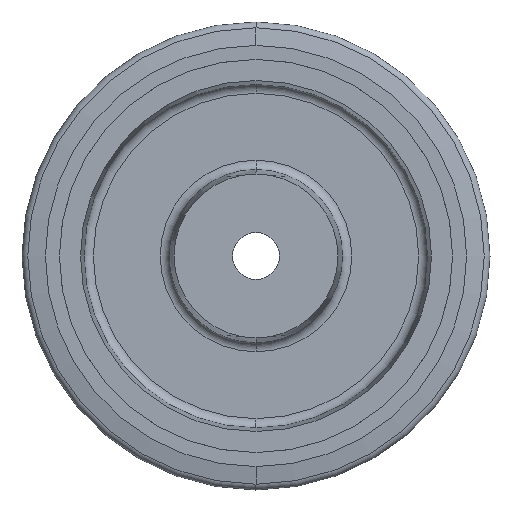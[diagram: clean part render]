
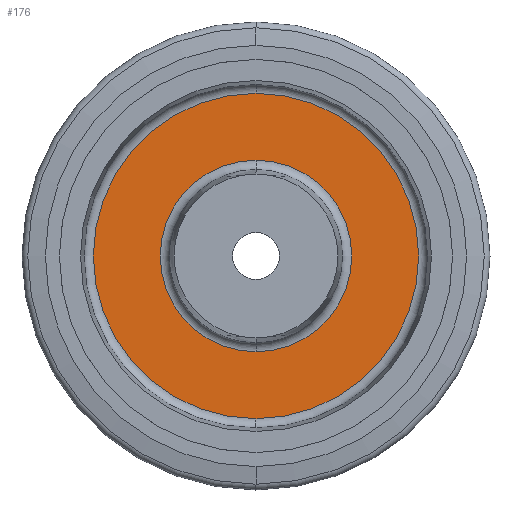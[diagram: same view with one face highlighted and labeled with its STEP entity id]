
A CAD part, left-side view. The second image highlights one B-rep face of the part: STEP entity #176.
In plain terms, the highlighted planar face has unit normal (-1, 0, 0).
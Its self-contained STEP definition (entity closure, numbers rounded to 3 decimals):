
#7 = CARTESIAN_POINT ( 'NONE',  ( -4., 0., 0. ) ) ;
#13 = CARTESIAN_POINT ( 'NONE',  ( -4., 0., -69.497 ) ) ;
#21 = CARTESIAN_POINT ( 'NONE',  ( -4., 0., 69.497 ) ) ;
#62 = DIRECTION ( 'NONE',  ( 1., 0., 0. ) ) ;
#74 = ORIENTED_EDGE ( 'NONE', *, *, #234, .T. ) ;
#98 = AXIS2_PLACEMENT_3D ( 'NONE', #1373, #769, #997 ) ;
#135 = CARTESIAN_POINT ( 'NONE',  ( -4., 0., 0. ) ) ;
#137 = DIRECTION ( 'NONE',  ( -1., 0., 0. ) ) ;
#168 = AXIS2_PLACEMENT_3D ( 'NONE', #135, #137, #499 ) ;
#176 = ADVANCED_FACE ( 'NONE', ( #428, #448 ), #976, .F. ) ;
#234 = EDGE_CURVE ( 'NONE', #695, #1296, #668, .T. ) ;
#249 = EDGE_LOOP ( 'NONE', ( #74, #1204 ) ) ;
#382 = CIRCLE ( 'NONE', #1064, 40.94 ) ;
#418 = AXIS2_PLACEMENT_3D ( 'NONE', #7, #925, #1405 ) ;
#428 = FACE_BOUND ( 'NONE', #1254, .T. ) ;
#448 = FACE_OUTER_BOUND ( 'NONE', #249, .T. ) ;
#499 = DIRECTION ( 'NONE',  ( 0., 0., 1. ) ) ;
#541 = CARTESIAN_POINT ( 'NONE',  ( -4., 69.497, 0. ) ) ;
#555 = AXIS2_PLACEMENT_3D ( 'NONE', #541, #62, #994 ) ;
#561 = EDGE_CURVE ( 'NONE', #1401, #799, #1483, .T. ) ;
#624 = CARTESIAN_POINT ( 'NONE',  ( -4., 0., 40.94 ) ) ;
#668 = CIRCLE ( 'NONE', #418, 69.497 ) ;
#695 = VERTEX_POINT ( 'NONE', #21 ) ;
#709 = EDGE_CURVE ( 'NONE', #1296, #695, #811, .T. ) ;
#741 = ORIENTED_EDGE ( 'NONE', *, *, #561, .F. ) ;
#749 = DIRECTION ( 'NONE',  ( -1., 0., 0. ) ) ;
#769 = DIRECTION ( 'NONE',  ( -1., 0., 0. ) ) ;
#799 = VERTEX_POINT ( 'NONE', #624 ) ;
#811 = CIRCLE ( 'NONE', #168, 69.497 ) ;
#872 = CARTESIAN_POINT ( 'NONE',  ( -4., 0., 0. ) ) ;
#925 = DIRECTION ( 'NONE',  ( -1., 0., 0. ) ) ;
#962 = ORIENTED_EDGE ( 'NONE', *, *, #1270, .F. ) ;
#976 = PLANE ( 'NONE',  #555 ) ;
#984 = DIRECTION ( 'NONE',  ( 0., 0., 1. ) ) ;
#994 = DIRECTION ( 'NONE',  ( 0., 0., -1. ) ) ;
#997 = DIRECTION ( 'NONE',  ( 0., 0., 1. ) ) ;
#1064 = AXIS2_PLACEMENT_3D ( 'NONE', #872, #749, #984 ) ;
#1204 = ORIENTED_EDGE ( 'NONE', *, *, #709, .T. ) ;
#1254 = EDGE_LOOP ( 'NONE', ( #962, #741 ) ) ;
#1255 = CARTESIAN_POINT ( 'NONE',  ( -4., 0., -40.94 ) ) ;
#1270 = EDGE_CURVE ( 'NONE', #799, #1401, #382, .T. ) ;
#1296 = VERTEX_POINT ( 'NONE', #13 ) ;
#1373 = CARTESIAN_POINT ( 'NONE',  ( -4., 0., 0. ) ) ;
#1401 = VERTEX_POINT ( 'NONE', #1255 ) ;
#1405 = DIRECTION ( 'NONE',  ( 0., 0., 1. ) ) ;
#1483 = CIRCLE ( 'NONE', #98, 40.94 ) ;
